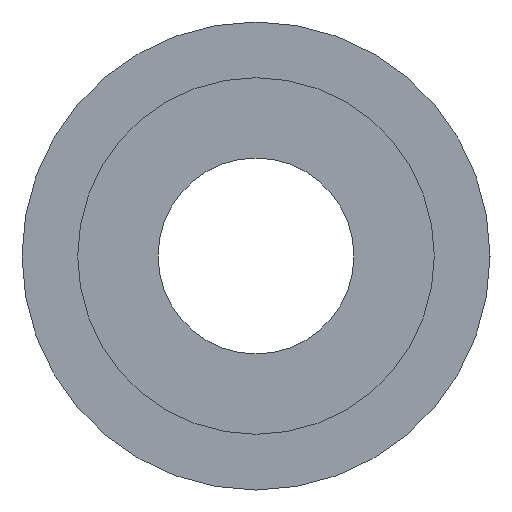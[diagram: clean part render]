
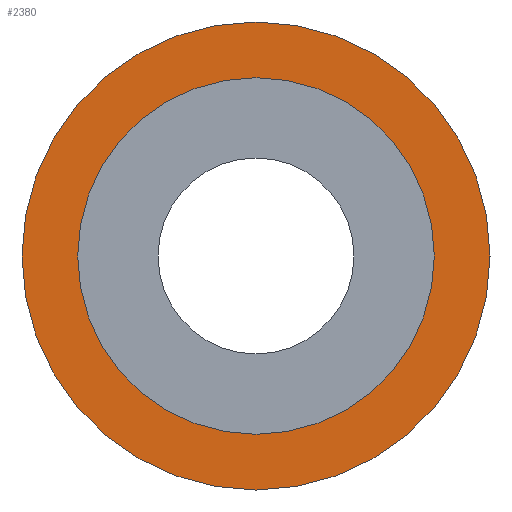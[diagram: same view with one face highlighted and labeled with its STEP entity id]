
A CAD part, left-side view. The second image highlights one B-rep face of the part: STEP entity #2380.
In plain terms, the highlighted planar face has unit normal (-1, 0, 0).
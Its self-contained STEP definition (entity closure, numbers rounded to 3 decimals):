
#960=CARTESIAN_POINT('',(24.479,46.757,-17.3));
#970=VERTEX_POINT('',#960);
#1130=CARTESIAN_POINT('',(24.479,46.757,17.3));
#1140=VERTEX_POINT('',#1130);
#1170=CARTESIAN_POINT('',(24.479,46.757,
0.));
#1180=DIRECTION('',(-1.,-0.,0.));
#1190=DIRECTION('',(0.,0.,1.));
#1200=AXIS2_PLACEMENT_3D('',#1170,#1180,#1190);
#1210=CIRCLE('',#1200,17.3);
#1220=EDGE_CURVE('',#970,#1140,#1210,.T.);
#2130=CARTESIAN_POINT('',(24.479,68.057,
0.));
#2140=DIRECTION('',(-1.,-0.,0.));
#2150=DIRECTION('',(0.,-1.,0.));
#2160=AXIS2_PLACEMENT_3D('',#2130,#2140,#2150);
#2170=PLANE('',#2160);
#2180=EDGE_CURVE('',#1140,#970,#1210,.T.);
#2190=ORIENTED_EDGE('',*,*,#2180,.F.);
#2200=ORIENTED_EDGE('',*,*,#1220,.F.);
#2210=EDGE_LOOP('',(#2200,#2190));
#2220=FACE_BOUND('',#2210,.T.);
#2230=CARTESIAN_POINT('',(24.479,46.757,
0.));
#2240=DIRECTION('',(-1.,-0.,0.));
#2250=DIRECTION('',(0.,-1.,0.));
#2260=AXIS2_PLACEMENT_3D('',#2230,#2240,#2250);
#2270=CIRCLE('',#2260,22.7);
#2280=CARTESIAN_POINT('',(24.479,24.057,
0.));
#2290=VERTEX_POINT('',#2280);
#2300=CARTESIAN_POINT('',(24.479,69.457,
0.));
#2310=VERTEX_POINT('',#2300);
#2320=EDGE_CURVE('',#2290,#2310,#2270,.T.);
#2330=ORIENTED_EDGE('',*,*,#2320,.T.);
#2340=EDGE_CURVE('',#2310,#2290,#2270,.T.);
#2350=ORIENTED_EDGE('',*,*,#2340,.T.);
#2360=EDGE_LOOP('',(#2350,#2330));
#2370=FACE_OUTER_BOUND('',#2360,.T.);
#2380=ADVANCED_FACE('',(#2220,#2370),#2170,.T.);
